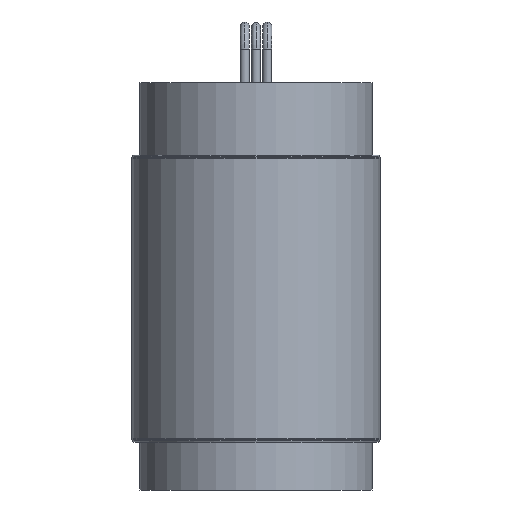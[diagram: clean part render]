
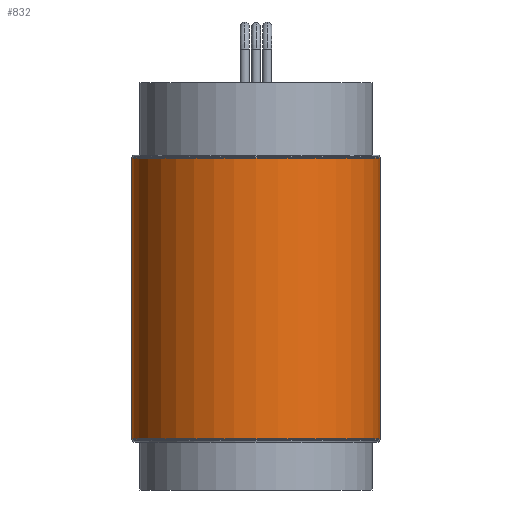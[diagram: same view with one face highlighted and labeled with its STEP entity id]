
A CAD part, front view. The second image highlights one B-rep face of the part: STEP entity #832.
In plain terms, the highlighted cylindrical face has radius 27.927 mm (diameter 55.855 mm), a partial arc.
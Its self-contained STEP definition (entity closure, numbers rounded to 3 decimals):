
#14 = CARTESIAN_POINT ( 'NONE',  ( 0., 0., 31.547 ) ) ;
#48 = LINE ( 'NONE', #415, #523 ) ;
#164 = CARTESIAN_POINT ( 'NONE',  ( 0., 0., 31.547 ) ) ;
#193 = DIRECTION ( 'NONE',  ( 1., 0., 0. ) ) ;
#214 = DIRECTION ( 'NONE',  ( 1., 0., 0. ) ) ;
#222 = CARTESIAN_POINT ( 'NONE',  ( -27.927, 0., -31.547 ) ) ;
#236 = CARTESIAN_POINT ( 'NONE',  ( 0., 0., -31.547 ) ) ;
#352 = LINE ( 'NONE', #910, #1438 ) ;
#415 = CARTESIAN_POINT ( 'NONE',  ( 27.927, 0., 31.547 ) ) ;
#421 = VERTEX_POINT ( 'NONE', #971 ) ;
#467 = CARTESIAN_POINT ( 'NONE',  ( 27.927, 0., 31.547 ) ) ;
#472 = ORIENTED_EDGE ( 'NONE', *, *, #948, .T. ) ;
#523 = VECTOR ( 'NONE', #1493, 1000. ) ;
#586 = ORIENTED_EDGE ( 'NONE', *, *, #1281, .T. ) ;
#696 = DIRECTION ( 'NONE',  ( 0., 0., 1. ) ) ;
#699 = EDGE_CURVE ( 'NONE', #1663, #1245, #714, .T. ) ;
#714 = CIRCLE ( 'NONE', #1815, 27.927 ) ;
#832 = ADVANCED_FACE ( 'NONE', ( #2194 ), #1324, .T. ) ;
#834 = VERTEX_POINT ( 'NONE', #222 ) ;
#910 = CARTESIAN_POINT ( 'NONE',  ( -27.927, 0., 31.547 ) ) ;
#912 = DIRECTION ( 'NONE',  ( 0., 0., 1. ) ) ;
#948 = EDGE_CURVE ( 'NONE', #1663, #834, #352, .T. ) ;
#971 = CARTESIAN_POINT ( 'NONE',  ( 27.927, 0., -31.547 ) ) ;
#1068 = ORIENTED_EDGE ( 'NONE', *, *, #699, .F. ) ;
#1098 = DIRECTION ( 'NONE',  ( 0., 0., -1. ) ) ;
#1113 = AXIS2_PLACEMENT_3D ( 'NONE', #236, #912, #214 ) ;
#1245 = VERTEX_POINT ( 'NONE', #467 ) ;
#1281 = EDGE_CURVE ( 'NONE', #834, #421, #2246, .T. ) ;
#1285 = DIRECTION ( 'NONE',  ( -1., 0., 0. ) ) ;
#1324 = CYLINDRICAL_SURFACE ( 'NONE', #2217, 27.927 ) ;
#1398 = ORIENTED_EDGE ( 'NONE', *, *, #2257, .F. ) ;
#1438 = VECTOR ( 'NONE', #1098, 1000. ) ;
#1439 = DIRECTION ( 'NONE',  ( 0., 0., -1. ) ) ;
#1493 = DIRECTION ( 'NONE',  ( 0., 0., -1. ) ) ;
#1663 = VERTEX_POINT ( 'NONE', #1878 ) ;
#1815 = AXIS2_PLACEMENT_3D ( 'NONE', #164, #696, #193 ) ;
#1878 = CARTESIAN_POINT ( 'NONE',  ( -27.927, 0., 31.547 ) ) ;
#2099 = EDGE_LOOP ( 'NONE', ( #1398, #1068, #472, #586 ) ) ;
#2194 = FACE_OUTER_BOUND ( 'NONE', #2099, .T. ) ;
#2217 = AXIS2_PLACEMENT_3D ( 'NONE', #14, #1439, #1285 ) ;
#2246 = CIRCLE ( 'NONE', #1113, 27.927 ) ;
#2257 = EDGE_CURVE ( 'NONE', #1245, #421, #48, .T. ) ;
